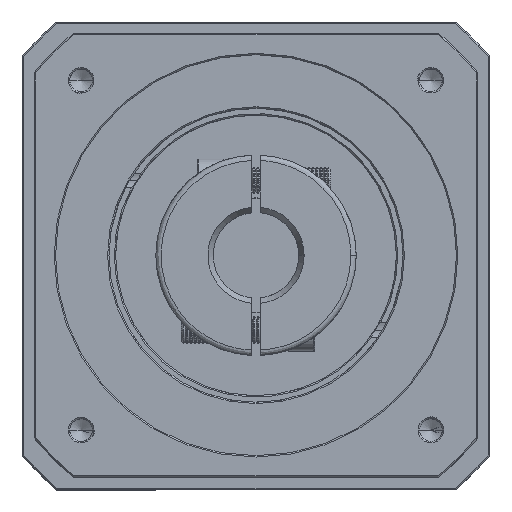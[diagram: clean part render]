
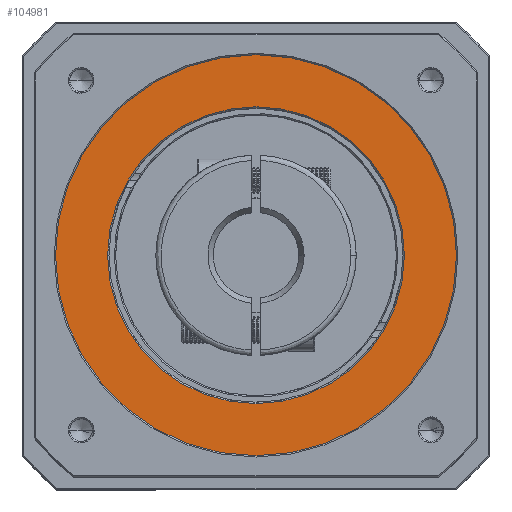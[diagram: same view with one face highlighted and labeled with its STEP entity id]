
A CAD part, top view. The second image highlights one B-rep face of the part: STEP entity #104981.
In plain terms, the highlighted planar face has unit normal (0, 0, 1).
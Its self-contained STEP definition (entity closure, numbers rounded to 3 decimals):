
#2922 = CIRCLE ( 'NONE', #16303, 75. ) ;
#4838 = EDGE_CURVE ( 'NONE', #128862, #114797, #104193, .T. ) ;
#4972 = EDGE_CURVE ( 'NONE', #34736, #86787, #2922, .T. ) ;
#11398 = CARTESIAN_POINT ( 'NONE',  ( -142.979, 83.421, 22.621 ) ) ;
#11532 = FACE_OUTER_BOUND ( 'NONE', #53429, .T. ) ;
#15219 = CIRCLE ( 'NONE', #115649, 55.5 ) ;
#16303 = AXIS2_PLACEMENT_3D ( 'NONE', #38891, #90837, #60713 ) ;
#26800 = AXIS2_PLACEMENT_3D ( 'NONE', #104205, #123309, #52142 ) ;
#27033 = DIRECTION ( 'NONE',  ( 0., 0., -1. ) ) ;
#28480 = CARTESIAN_POINT ( 'NONE',  ( -87.479, 83.421, 22.621 ) ) ;
#31567 = EDGE_CURVE ( 'NONE', #86787, #34736, #126519, .T. ) ;
#34381 = CARTESIAN_POINT ( 'NONE',  ( -12.479, 83.421, 22.621 ) ) ;
#34736 = VERTEX_POINT ( 'NONE', #89609 ) ;
#36424 = CARTESIAN_POINT ( 'NONE',  ( -87.479, 83.421, 22.621 ) ) ;
#38891 = CARTESIAN_POINT ( 'NONE',  ( -87.479, 83.421, 22.621 ) ) ;
#39442 = DIRECTION ( 'NONE',  ( 1., 0., 0. ) ) ;
#40049 = AXIS2_PLACEMENT_3D ( 'NONE', #28480, #101930, #39442 ) ;
#41303 = ORIENTED_EDGE ( 'NONE', *, *, #4972, .T. ) ;
#47800 = DIRECTION ( 'NONE',  ( 0., 0., -1. ) ) ;
#48458 = CARTESIAN_POINT ( 'NONE',  ( -87.479, 83.421, 22.621 ) ) ;
#50341 = ORIENTED_EDGE ( 'NONE', *, *, #31567, .T. ) ;
#52142 = DIRECTION ( 'NONE',  ( 1., 0., 0. ) ) ;
#53429 = EDGE_LOOP ( 'NONE', ( #50341, #41303 ) ) ;
#59998 = AXIS2_PLACEMENT_3D ( 'NONE', #48458, #27033, #131091 ) ;
#60713 = DIRECTION ( 'NONE',  ( 1., 0., 0. ) ) ;
#80275 = EDGE_LOOP ( 'NONE', ( #98573, #119997 ) ) ;
#86787 = VERTEX_POINT ( 'NONE', #34381 ) ;
#89609 = CARTESIAN_POINT ( 'NONE',  ( -162.479, 83.421, 22.621 ) ) ;
#90837 = DIRECTION ( 'NONE',  ( 0., 0., 1. ) ) ;
#90934 = PLANE ( 'NONE',  #40049 ) ;
#98573 = ORIENTED_EDGE ( 'NONE', *, *, #4838, .T. ) ;
#99374 = DIRECTION ( 'NONE',  ( 1., 0., 0. ) ) ;
#101930 = DIRECTION ( 'NONE',  ( 0., 0., 1. ) ) ;
#104193 = CIRCLE ( 'NONE', #59998, 55.5 ) ;
#104205 = CARTESIAN_POINT ( 'NONE',  ( -87.479, 83.421, 22.621 ) ) ;
#104675 = FACE_BOUND ( 'NONE', #80275, .T. ) ;
#104981 = ADVANCED_FACE ( 'NONE', ( #104675, #11532 ), #90934, .T. ) ;
#114797 = VERTEX_POINT ( 'NONE', #11398 ) ;
#115649 = AXIS2_PLACEMENT_3D ( 'NONE', #36424, #47800, #99374 ) ;
#119997 = ORIENTED_EDGE ( 'NONE', *, *, #132225, .T. ) ;
#120171 = CARTESIAN_POINT ( 'NONE',  ( -31.979, 83.421, 22.621 ) ) ;
#123309 = DIRECTION ( 'NONE',  ( 0., 0., 1. ) ) ;
#126519 = CIRCLE ( 'NONE', #26800, 75. ) ;
#128862 = VERTEX_POINT ( 'NONE', #120171 ) ;
#131091 = DIRECTION ( 'NONE',  ( 1., 0., 0. ) ) ;
#132225 = EDGE_CURVE ( 'NONE', #114797, #128862, #15219, .T. ) ;
